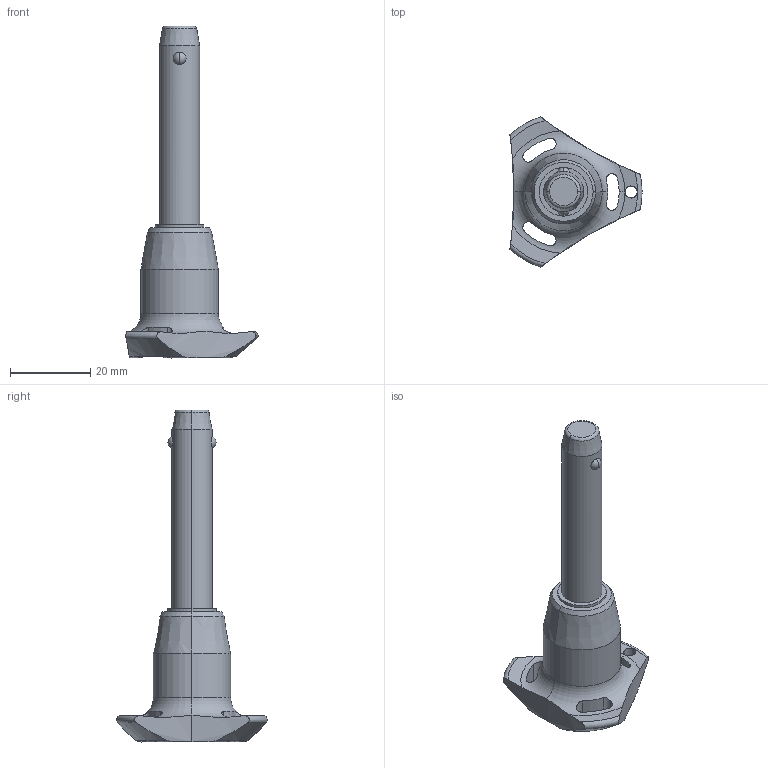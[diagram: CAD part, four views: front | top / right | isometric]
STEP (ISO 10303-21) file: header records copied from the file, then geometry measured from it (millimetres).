
FILE_DESCRIPTION (( 'STEP AP203' ), '1' );
FILE_NAME ('QR1734.M10-040-S.step', '2025-11-12T14:25:01', ( '' ), ( '' ), 'SwSTEP 2.0', 'SolidWorks 2019', '' );
FILE_SCHEMA (( 'CONFIG_CONTROL_DESIGN' ));
Length unit declared in the file: millimetre
Products named in the file (1): QR1734.M10-040-S
Bounding box: 33 x 37.51 x 82.9 mm (x, y, z)
Volume: 14221.5 mm3; surface area: 5421.1 mm2
Topology: 1 solids, 1 shells, 65 faces, 174 edges, 109 vertices
Faces by surface type: cylinder 30, cone 14, torus 11, sphere 6, plane 4
Entity records: 2758 total; most frequent: CARTESIAN_POINT 1085, ORIENTED_EDGE 348, DIRECTION 331, EDGE_CURVE 174, AXIS2_PLACEMENT_3D 147, VERTEX_POINT 109, CIRCLE 81, EDGE_LOOP 71
